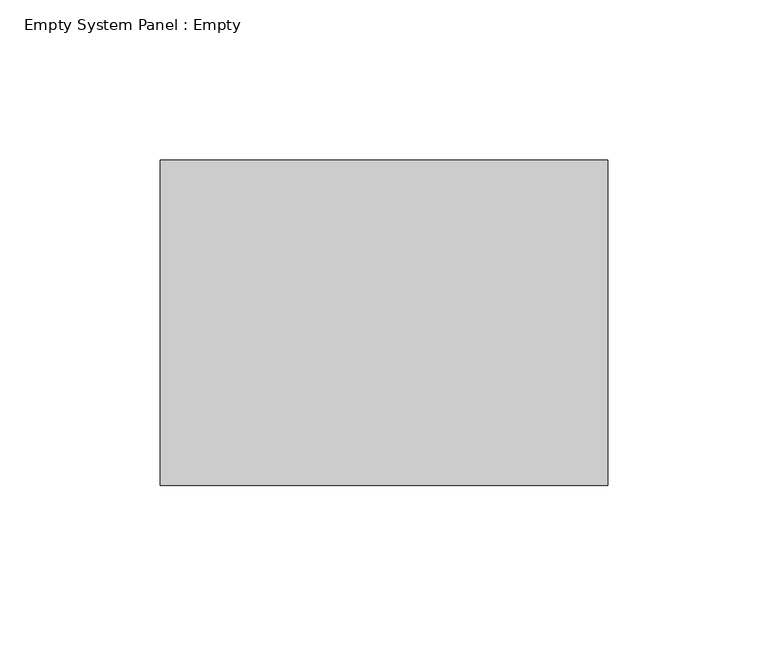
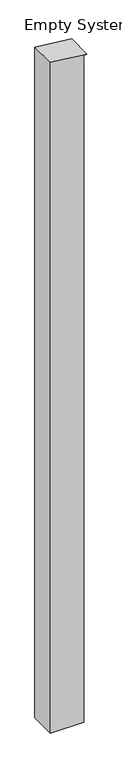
"""IFC4 building model written with IfcOpenShell, lengths in millimetres: plate geometry, Empty System Panel : Empty."""

from ifc_helpers import new_model, si_unit, frame, origin, place, context, project, spatial, polyline, outline, extrude, source, transform, mapped, element, save


def empty_system_panel_empty_65664627(model_context):
    return source(origin(), model_context, "Body", "SweptSolid", [
        extrude(outline(polyline([(0.0, -69.85), (0.0, 57.15), (2690.2197047, 57.15), (2690.2197047, 69.85), (2705.8448946, -69.85), (0.0, -69.85)])), frame((0.0, -50.8, 0.0), z_axis=(0.0, 1.0, 0.0), x_axis=(0.0, 0.0, 1.0)), (0.0, 0.0, 1.0), 101.6),
    ])


if __name__ == "__main__":
    model = new_model("IFC4")
    model_context = context("Model", 3, world=origin())
    ifc_project = project(units=[si_unit("LENGTHUNIT", "METRE", prefix="MILLI")], contexts=[model_context])
    site = spatial("IfcSite", under=ifc_project)
    building = spatial("IfcBuilding", under=site)
    placement = place(None, origin())
    empty_system_panel_empty_shape = empty_system_panel_empty_65664627(model_context)
    element("IfcPlate", 1, ObjectType="Empty System Panel : Empty", at=placement, inside=building, context=model_context, shape_type="MappedRepresentation", body=[
        mapped(empty_system_panel_empty_shape, transform((0.0, 0.0, 0.0), x_axis=(1.0, 0.0, 0.0), y_axis=(0.0, 1.0, 0.0), z_axis=(0.0, 0.0, 1.0))),
    ])
    save(model, "model.ifc")
